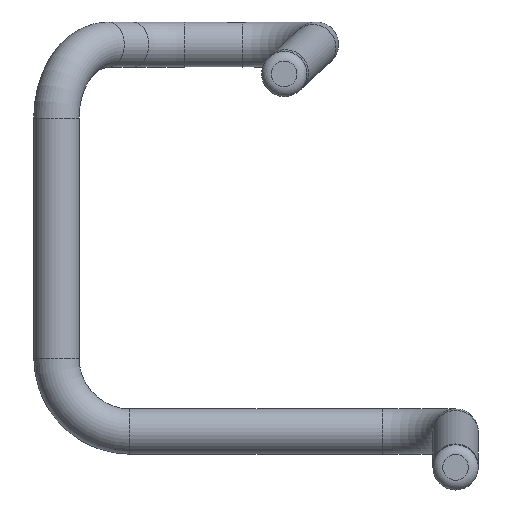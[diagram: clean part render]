
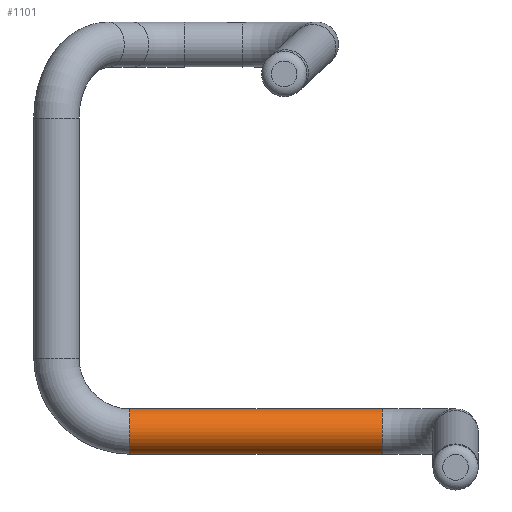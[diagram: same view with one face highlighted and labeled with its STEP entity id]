
A CAD part, front view. The second image highlights one B-rep face of the part: STEP entity #1101.
In plain terms, the highlighted cylindrical face has radius 0.925 mm (diameter 1.85 mm), a full revolution.
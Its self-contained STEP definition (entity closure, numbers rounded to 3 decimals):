
#687 = TOROIDAL_SURFACE('',#688,3.,0.925);
#688 = AXIS2_PLACEMENT_3D('',#689,#690,#691);
#689 = CARTESIAN_POINT('',(-29.3,47.65,-16.3));
#690 = DIRECTION('',(0.,1.,0.));
#691 = DIRECTION('',(0.,0.,-1.));
#703 = VERTEX_POINT('',#704);
#704 = CARTESIAN_POINT('',(-29.3,47.65,-18.375));
#727 = EDGE_CURVE('',#703,#703,#728,.T.);
#728 = SURFACE_CURVE('',#729,(#734,#740),.PCURVE_S1.);
#729 = CIRCLE('',#730,0.925);
#730 = AXIS2_PLACEMENT_3D('',#731,#732,#733);
#731 = CARTESIAN_POINT('',(-29.3,47.65,-19.3));
#732 = DIRECTION('',(-1.,0.,0.));
#733 = DIRECTION('',(0.,0.,1.));
#734 = PCURVE('',#687,#735);
#735 = DEFINITIONAL_REPRESENTATION('',(#736),#739);
#736 = B_SPLINE_CURVE_WITH_KNOTS('',1,(#737,#738),.UNSPECIFIED.,.F.,.F.,
  (2,2),(0.,6.283),.PIECEWISE_BEZIER_KNOTS.);
#737 = CARTESIAN_POINT('',(0.,9.425));
#738 = CARTESIAN_POINT('',(0.,3.142));
#739 = ( GEOMETRIC_REPRESENTATION_CONTEXT(2) 
PARAMETRIC_REPRESENTATION_CONTEXT() REPRESENTATION_CONTEXT('2D SPACE',''
  ) );
#740 = PCURVE('',#741,#746);
#741 = CYLINDRICAL_SURFACE('',#742,0.925);
#742 = AXIS2_PLACEMENT_3D('',#743,#744,#745);
#743 = CARTESIAN_POINT('',(-19.,47.65,-19.3));
#744 = DIRECTION('',(-1.,0.,0.));
#745 = DIRECTION('',(0.,0.,1.));
#746 = DEFINITIONAL_REPRESENTATION('',(#747),#751);
#747 = LINE('',#748,#749);
#748 = CARTESIAN_POINT('',(0.,10.3));
#749 = VECTOR('',#750,1.);
#750 = DIRECTION('',(1.,0.));
#751 = ( GEOMETRIC_REPRESENTATION_CONTEXT(2) 
PARAMETRIC_REPRESENTATION_CONTEXT() REPRESENTATION_CONTEXT('2D SPACE',''
  ) );
#759 = VERTEX_POINT('',#760);
#760 = CARTESIAN_POINT('',(-19.,47.65,-18.375));
#768 = TOROIDAL_SURFACE('',#769,3.,0.925);
#769 = AXIS2_PLACEMENT_3D('',#770,#771,#772);
#770 = CARTESIAN_POINT('',(-19.,44.65,-19.3));
#771 = DIRECTION('',(-0.,-0.,1.));
#772 = DIRECTION('',(1.,0.,0.));
#786 = EDGE_CURVE('',#759,#759,#787,.T.);
#787 = SURFACE_CURVE('',#788,(#793,#800),.PCURVE_S1.);
#788 = CIRCLE('',#789,0.925);
#789 = AXIS2_PLACEMENT_3D('',#790,#791,#792);
#790 = CARTESIAN_POINT('',(-19.,47.65,-19.3));
#791 = DIRECTION('',(1.,0.,-0.));
#792 = DIRECTION('',(0.,1.,0.));
#793 = PCURVE('',#768,#794);
#794 = DEFINITIONAL_REPRESENTATION('',(#795),#799);
#795 = LINE('',#796,#797);
#796 = CARTESIAN_POINT('',(1.571,0.));
#797 = VECTOR('',#798,1.);
#798 = DIRECTION('',(0.,1.));
#799 = ( GEOMETRIC_REPRESENTATION_CONTEXT(2) 
PARAMETRIC_REPRESENTATION_CONTEXT() REPRESENTATION_CONTEXT('2D SPACE',''
  ) );
#800 = PCURVE('',#741,#801);
#801 = DEFINITIONAL_REPRESENTATION('',(#802),#805);
#802 = B_SPLINE_CURVE_WITH_KNOTS('',1,(#803,#804),.UNSPECIFIED.,.F.,.F.,
  (2,2),(1.571,7.854),.PIECEWISE_BEZIER_KNOTS.);
#803 = CARTESIAN_POINT('',(6.283,0.));
#804 = CARTESIAN_POINT('',(0.,0.));
#805 = ( GEOMETRIC_REPRESENTATION_CONTEXT(2) 
PARAMETRIC_REPRESENTATION_CONTEXT() REPRESENTATION_CONTEXT('2D SPACE',''
  ) );
#1101 = ADVANCED_FACE('',(#1102),#741,.T.);
#1102 = FACE_BOUND('',#1103,.T.);
#1103 = EDGE_LOOP('',(#1104,#1124,#1125,#1126));
#1104 = ORIENTED_EDGE('',*,*,#1105,.T.);
#1105 = EDGE_CURVE('',#759,#703,#1106,.T.);
#1106 = SEAM_CURVE('',#1107,(#1111,#1118),.PCURVE_S1.);
#1107 = LINE('',#1108,#1109);
#1108 = CARTESIAN_POINT('',(-19.,47.65,-18.375));
#1109 = VECTOR('',#1110,1.);
#1110 = DIRECTION('',(-1.,0.,0.));
#1111 = PCURVE('',#741,#1112);
#1112 = DEFINITIONAL_REPRESENTATION('',(#1113),#1117);
#1113 = LINE('',#1114,#1115);
#1114 = CARTESIAN_POINT('',(6.283,0.));
#1115 = VECTOR('',#1116,1.);
#1116 = DIRECTION('',(0.,1.));
#1117 = ( GEOMETRIC_REPRESENTATION_CONTEXT(2) 
PARAMETRIC_REPRESENTATION_CONTEXT() REPRESENTATION_CONTEXT('2D SPACE',''
  ) );
#1118 = PCURVE('',#741,#1119);
#1119 = DEFINITIONAL_REPRESENTATION('',(#1120),#1123);
#1120 = B_SPLINE_CURVE_WITH_KNOTS('',1,(#1121,#1122),.UNSPECIFIED.,.F.,
  .F.,(2,2),(0.,10.3),.PIECEWISE_BEZIER_KNOTS.);
#1121 = CARTESIAN_POINT('',(0.,0.));
#1122 = CARTESIAN_POINT('',(0.,10.3));
#1123 = ( GEOMETRIC_REPRESENTATION_CONTEXT(2) 
PARAMETRIC_REPRESENTATION_CONTEXT() REPRESENTATION_CONTEXT('2D SPACE',''
  ) );
#1124 = ORIENTED_EDGE('',*,*,#727,.F.);
#1125 = ORIENTED_EDGE('',*,*,#1105,.F.);
#1126 = ORIENTED_EDGE('',*,*,#786,.F.);
